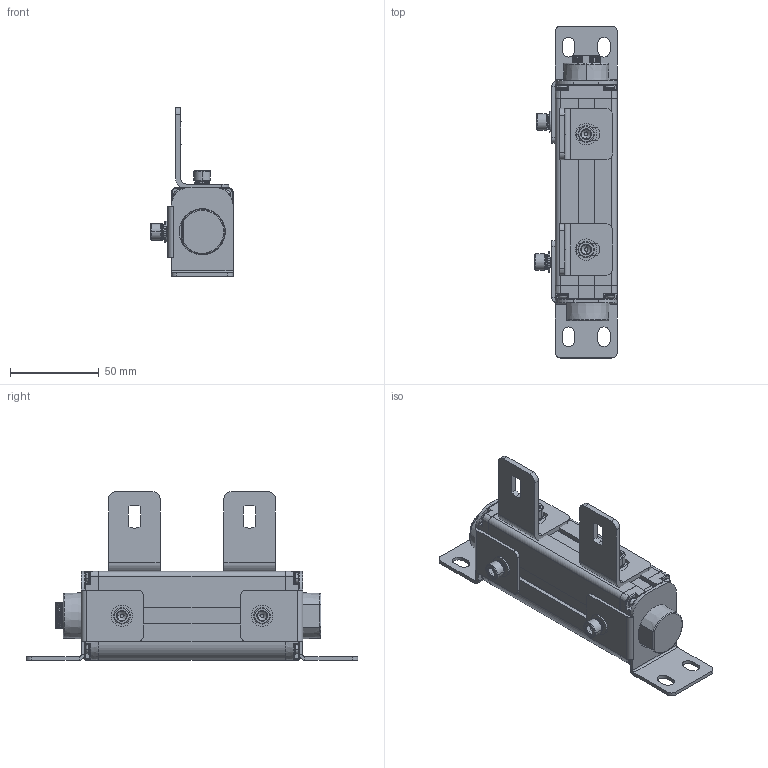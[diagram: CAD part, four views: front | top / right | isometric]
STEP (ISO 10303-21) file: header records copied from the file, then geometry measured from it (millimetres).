
FILE_DESCRIPTION((''),'2;1');
FILE_NAME('ESN--000_ASM','2021-08-10T16:36:19',('18720616900'),(''),'CREO PARAMETRIC BY PTC INC, 2019010','CREO PARAMETRIC BY PTC INC, 2019010','');
FILE_SCHEMA(('CONFIG_CONTROL_DESIGN'));
Length unit declared in the file: millimetre
Products named in the file (22): 00; 000; _0001; 4000; 4--0001; ESN_40001_ASM; L10001; M6-8--0001; M6-1--00; M6-1-00; M6-80001_ASM; L1--0001_ASM; _0002; 0005; ST-3-120001; H1--000; H1--0001_ASM; H1--0003_ASM; ESN--000_ASM
Assembly tree (34 placements, depth 4):
  ESN--000_ASM
    00
    000
    _0001
    000
    ESN_40001_ASM
      4000
      4--0001  x4
    L1--0001_ASM  x2
      L10001
      M6-80001_ASM
        M6-8--0001
        M6-1--00
        M6-1-00
        00
    _0002
    0005
    ST-3-120001  x8
    H1--0001_ASM
      H1--000
      M6-80001_ASM
        M6-8--0001
        M6-1--00
        M6-1-00
        00
    H1--0003_ASM
      H1--000
      M6-80001_ASM
        M6-8--0001
        M6-1--00
        M6-1-00
        00
Bounding box: 46.5 x 187 x 94.95 mm (x, y, z)
Volume: 224341.4 mm3; surface area: 80842 mm2
Topology: 39 solids, 39 shells, 1727 faces, 4555 edges, 2925 vertices
Faces by surface type: plane 541, cylinder 404, bspline 362, cone 291, torus 105, sphere 24
Entity records: 45714 total; most frequent: CARTESIAN_POINT 24222, ORIENTED_EDGE 4766, DIRECTION 3842, EDGE_CURVE 2383, VERTEX_POINT 1546, AXIS2_PLACEMENT_3D 1400, VECTOR 1042, LINE 1042
